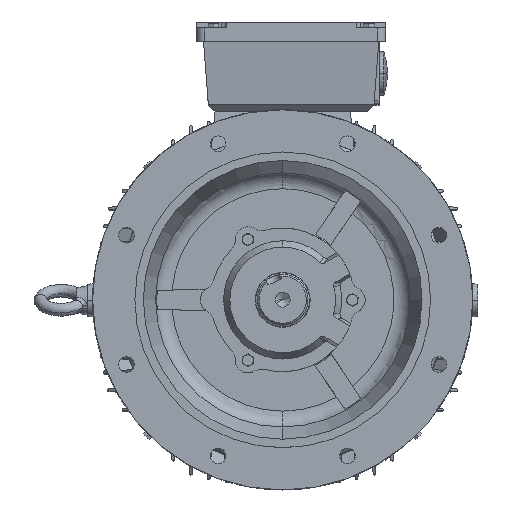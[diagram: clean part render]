
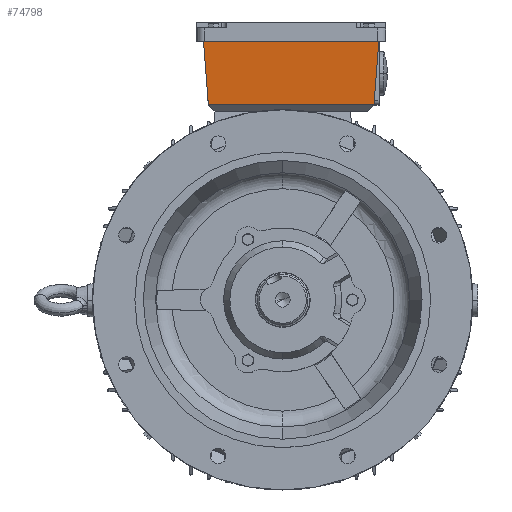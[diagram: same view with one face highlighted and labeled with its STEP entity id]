
A CAD part, top view. The second image highlights one B-rep face of the part: STEP entity #74798.
In plain terms, the highlighted planar face has unit normal (0, -0.076, 0.997) as drawn and (-0.997, -0.076, 0) by its records, which use the part's own axes.
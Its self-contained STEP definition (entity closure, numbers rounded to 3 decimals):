
#5369 = DIRECTION ( 'NONE',  ( -0.997, -0.076, 0. ) ) ;
#5372 = CARTESIAN_POINT ( 'NONE',  ( -93.461, -7.098, 0. ) ) ;
#5374 = PLANE ( 'NONE',  #18069 ) ;
#5376 = DIRECTION ( 'NONE',  ( 0.076, -0.997, 0. ) ) ;
#7105 = FACE_OUTER_BOUND ( 'NONE', #59293, .T. ) ;
#18069 = AXIS2_PLACEMENT_3D ( 'NONE', #5372, #5369, #5376 ) ;
#19001 = EDGE_CURVE ( 'NONE', #94480, #94493, #86354, .T. ) ;
#19002 = EDGE_CURVE ( 'NONE', #94482, #94492, #86355, .T. ) ;
#19004 = EDGE_CURVE ( 'NONE', #94482, #94480, #86357, .T. ) ;
#19015 = EDGE_CURVE ( 'NONE', #94492, #94493, #86375, .T. ) ;
#37998 = ORIENTED_EDGE ( 'NONE', *, *, #19015, .T. ) ;
#38033 = ORIENTED_EDGE ( 'NONE', *, *, #19001, .F. ) ;
#38132 = ORIENTED_EDGE ( 'NONE', *, *, #19004, .F. ) ;
#38139 = ORIENTED_EDGE ( 'NONE', *, *, #19002, .T. ) ;
#59293 = EDGE_LOOP ( 'NONE', ( #38139, #37998, #38033, #38132 ) ) ;
#59963 = CARTESIAN_POINT ( 'NONE',  ( -88., -79., -98. ) ) ;
#59966 = CARTESIAN_POINT ( 'NONE',  ( -88., -79., 98. ) ) ;
#66665 = CARTESIAN_POINT ( 'NONE',  ( -94., 0., 104. ) ) ;
#66668 = CARTESIAN_POINT ( 'NONE',  ( -94., 0., 104. ) ) ;
#66671 = DIRECTION ( 'NONE',  ( 0.076, -0.994, -0.076 ) ) ;
#66673 = CARTESIAN_POINT ( 'NONE',  ( -94., 0., -104. ) ) ;
#66675 = DIRECTION ( 'NONE',  ( 0.076, -0.994, 0.076 ) ) ;
#66681 = DIRECTION ( 'NONE',  ( 0., 0., 1. ) ) ;
#66727 = CARTESIAN_POINT ( 'NONE',  ( -88., -79., 98. ) ) ;
#66739 = DIRECTION ( 'NONE',  ( 0., 0., 1. ) ) ;
#74798 = ADVANCED_FACE ( 'NONE', ( #7105 ), #5374, .T. ) ;
#75035 = CARTESIAN_POINT ( 'NONE',  ( -94., 0., 104. ) ) ;
#75038 = CARTESIAN_POINT ( 'NONE',  ( -94., 0., -104. ) ) ;
#86354 = LINE ( 'NONE', #66668, #86356 ) ;
#86355 = LINE ( 'NONE', #66673, #86358 ) ;
#86356 = VECTOR ( 'NONE', #66671, 1000. ) ;
#86357 = LINE ( 'NONE', #66665, #86362 ) ;
#86358 = VECTOR ( 'NONE', #66675, 1000. ) ;
#86362 = VECTOR ( 'NONE', #66681, 1000. ) ;
#86375 = LINE ( 'NONE', #66727, #86380 ) ;
#86380 = VECTOR ( 'NONE', #66739, 1000. ) ;
#94480 = VERTEX_POINT ( 'NONE', #75035 ) ;
#94482 = VERTEX_POINT ( 'NONE', #75038 ) ;
#94492 = VERTEX_POINT ( 'NONE', #59963 ) ;
#94493 = VERTEX_POINT ( 'NONE', #59966 ) ;
